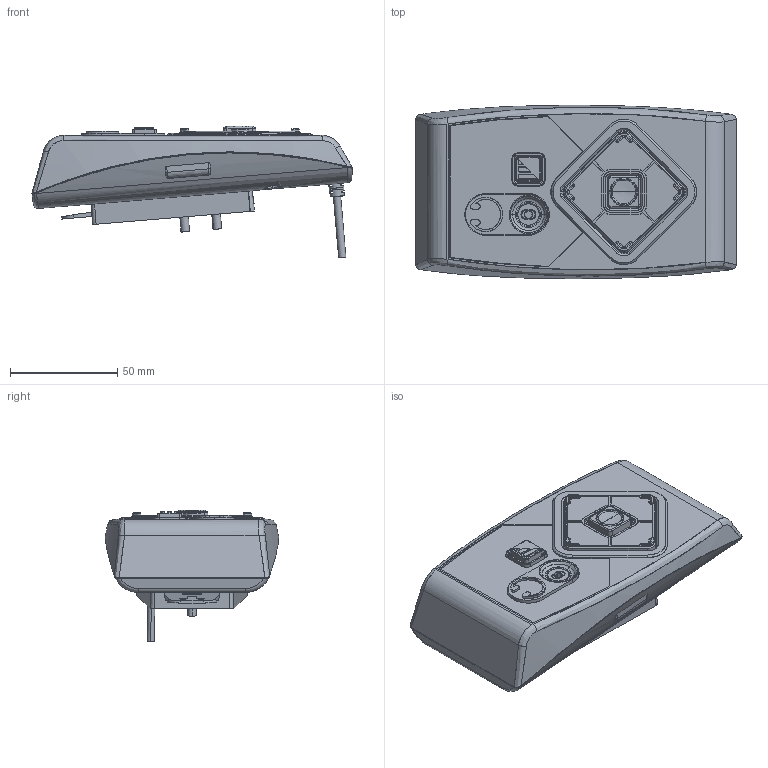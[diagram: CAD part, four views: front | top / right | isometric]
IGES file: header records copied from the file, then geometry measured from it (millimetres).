
Start section: SolidWorks IGES file using analytic representation for surfaces
Global section: file name: C:\Users\rayc\Desktop\UNAV ACCESSIBILITY MODULE WITH BRACKET ASSY.IGS; native system: SolidWorks 2017; preprocessor: SolidWorks 2017; author: rayc; date: 180130.102420; units: millimetre
Bounding box: 149.48 x 80.98 x 61.35 mm (x, y, z)
Surface area: 53593.2 mm2 (no closed solid volume)
Topology: 0 solids, 0 shells, 1049 faces, 13667 edges, 13646 vertices
Faces by surface type: bspline 655, revolution 394
